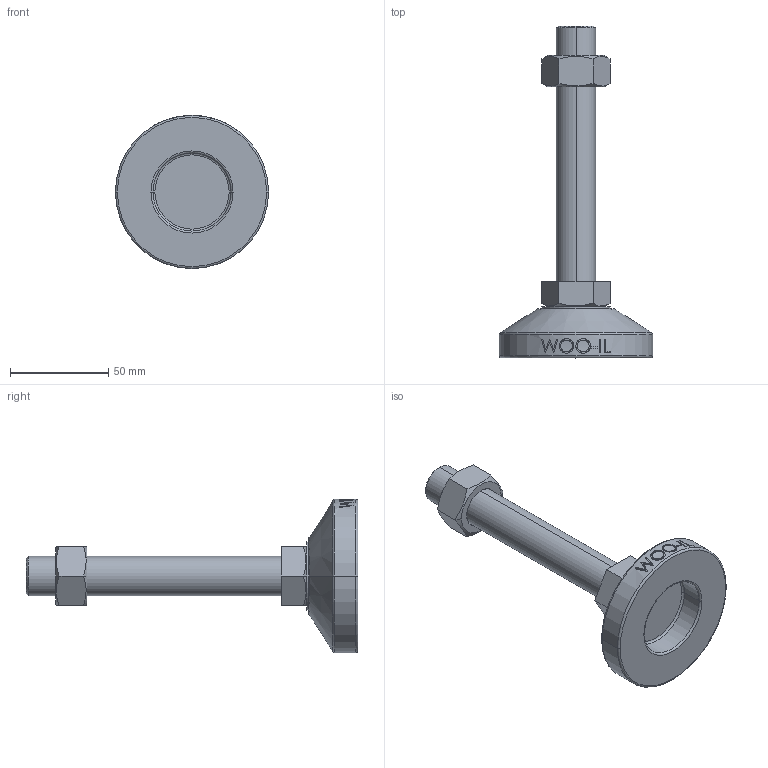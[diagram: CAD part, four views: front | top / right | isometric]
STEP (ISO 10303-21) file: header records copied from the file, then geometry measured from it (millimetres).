
FILE_DESCRIPTION (( 'STEP AP214' ), '1' );
FILE_NAME ('MF78-M20-130.step', '2021-02-03T08:21:28', ( '' ), ( '' ), 'SwSTEP 2.0', 'SolidWorks 2019', '' );
FILE_SCHEMA (( 'AUTOMOTIVE_DESIGN' ));
Length unit declared in the file: millimetre
Products named in the file (2): MF78-M20-130
Bounding box: 78 x 169 x 78 mm (x, y, z)
Volume: 138066.7 mm3; surface area: 29162.6 mm2
Topology: 3 solids, 3 shells, 106 faces, 243 edges, 154 vertices
Faces by surface type: plane 48, cylinder 18, bspline 16, cone 14, torus 10
Entity records: 4532 total; most frequent: CARTESIAN_POINT 2189, ORIENTED_EDGE 486, DIRECTION 439, EDGE_CURVE 243, AXIS2_PLACEMENT_3D 170, VERTEX_POINT 154, EDGE_LOOP 119, ADVANCED_FACE 106
